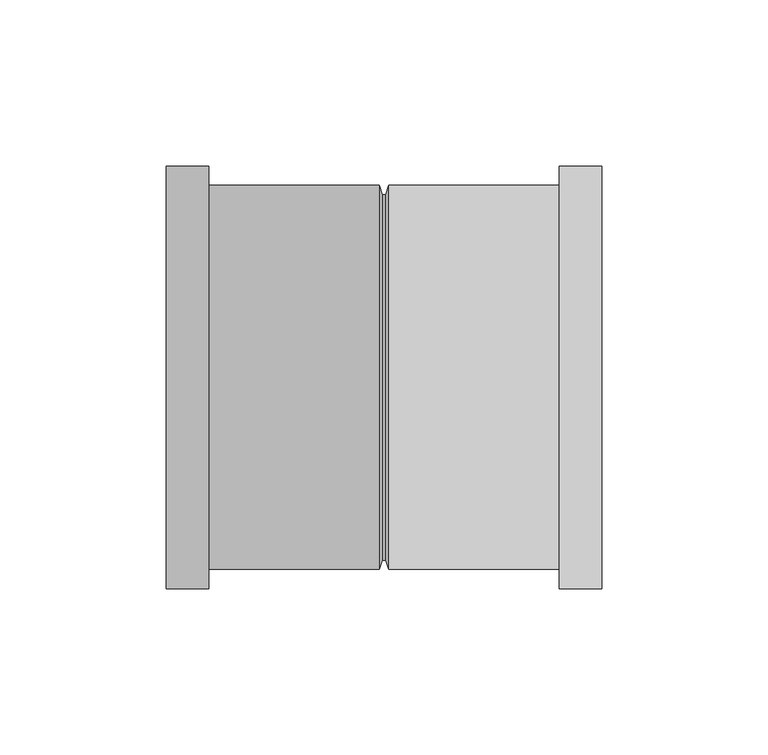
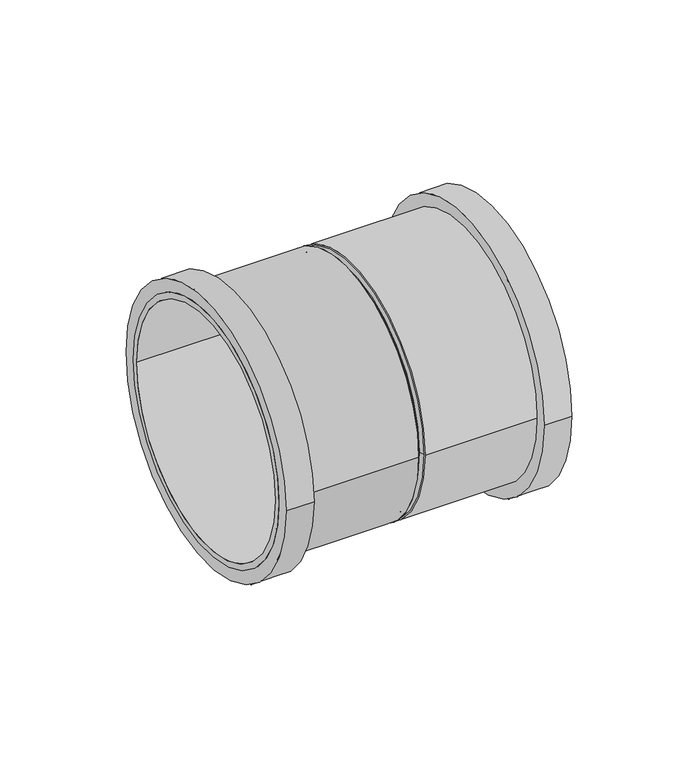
"""IFC4 building model written with IfcOpenShell, lengths in millimetres: pipe fitting geometry, Superdrain HTMM-Double socket : Superdrain HTMM-Double socket."""

from ifc_helpers import new_model, si_unit, point, frame, origin, origin_2d, place, context, project, spatial, polyline, circle_curve, trimmed, segment, composite_curve, outline, extrude, source, transform, mapped, element, save
from ifc_brep_helpers import plane_surface, revolved_surface, advanced_brep


def pipe_fitting_79083c1f(model_context):
    return source(origin(), model_context, "Body", "SolidModel", [
        extrude(outline(composite_curve([segment(trimmed(circle_curve(origin_2d(), 57.75), [point((57.75, 0.0))], [point((-57.75, 0.0))], False, "CARTESIAN"), True, "CONTINUOUS"), segment(trimmed(circle_curve(origin_2d(), 57.75), [point((-57.75, 0.0))], [point((57.75, 0.0))], False, "CARTESIAN"), True, "CONTINUOUS")], self_intersect=False), holes=[composite_curve([segment(trimmed(circle_curve(origin_2d(), 55.0), [point((55.0, 0.0))], [point((-55.0, 0.0))], True, "CARTESIAN"), True, "CONTINUOUS"), segment(trimmed(circle_curve(origin_2d(), 55.0), [point((-55.0, 0.0))], [point((55.0, 0.0))], True, "CARTESIAN"), True, "CONTINUOUS")], self_intersect=False)]), frame((1.5, 0.0, 0.0), z_axis=(1.0, 0.0, 0.0), x_axis=(0.0, 1.0, 0.0)), (0.0, 0.0, 1.0), 64.0),
        extrude(outline(composite_curve([segment(trimmed(circle_curve(origin_2d(), 63.525), [point((63.525, 0.0))], [point((-63.525, 0.0))], False, "CARTESIAN"), True, "CONTINUOUS"), segment(trimmed(circle_curve(origin_2d(), 63.525), [point((-63.525, 0.0))], [point((63.525, 0.0))], False, "CARTESIAN"), True, "CONTINUOUS")], self_intersect=False), holes=[composite_curve([segment(trimmed(circle_curve(origin_2d(), 55.0), [point((55.0, 0.0))], [point((-55.0, 0.0))], True, "CARTESIAN"), True, "CONTINUOUS"), segment(trimmed(circle_curve(origin_2d(), 55.0), [point((-55.0, 0.0))], [point((55.0, 0.0))], True, "CARTESIAN"), True, "CONTINUOUS")], self_intersect=False)]), frame((52.7, 0.0, 0.0), z_axis=(1.0, 0.0, 0.0), x_axis=(0.0, 1.0, 0.0)), (0.0, 0.0, 1.0), 12.8),
        advanced_brep(
        [(0.5, 55.0, 0.0), (0.5, -55.0, 0.0), (1.5, 57.75, 0.0), (1.5, -57.75, 0.0)],
        [
            (0, 1, circle_curve(frame((0.5, 0.0, 0.0), z_axis=(-1.0, 0.0, 0.0), x_axis=(0.0, 1.0, 0.0)), 55.0)),
            (1, 0, circle_curve(frame((0.5, 0.0, 0.0), z_axis=(-1.0, 0.0, 0.0), x_axis=(0.0, -1.0, 0.0)), 55.0)),
            (2, 3, circle_curve(frame((1.5, 0.0, 0.0), z_axis=(1.0, 0.0, 0.0), x_axis=(0.0, -1.0, 0.0)), 57.75)),
            (3, 2, circle_curve(frame((1.5, 0.0, 0.0), z_axis=(1.0, 0.0, 0.0), x_axis=(0.0, 1.0, 0.0)), 57.75)),
            (3, 1),
            (0, 2),
        ],
        [
            plane_surface(frame((0.5, 0.0, 0.0), z_axis=(-1.0, 0.0, 0.0), x_axis=(0.0, 0.0, -1.0))),
            plane_surface(frame((1.5, 0.0, 0.0), z_axis=(1.0, 0.0, 0.0), x_axis=(0.0, 0.0, -1.0))),
            revolved_surface(polyline([(0.5, 55.0, 0.0), (1.5, 57.75, 0.0)]), (-19.5, 0.0, 0.0), (1.0, 0.0, 0.0)),
            revolved_surface(polyline([(0.5, -55.0, 0.0), (1.5, -57.75, 0.0)]), (-19.5, 0.0, 0.0), (1.0, 0.0, 0.0)),
        ],
        [
            (0, [[1, 2]]),
            (1, [[3, 4]]),
            (2, [[-4, 5, -1, 6]]),
            (3, [[-3, -6, -2, -5]]),
        ],
    ),
        extrude(outline(composite_curve([segment(trimmed(circle_curve(origin_2d(), 57.75), [point((-57.75, 0.0))], [point((57.75, 0.0))], False, "CARTESIAN"), True, "CONTINUOUS"), segment(trimmed(circle_curve(origin_2d(), 57.75), [point((57.75, 0.0))], [point((-57.75, 0.0))], False, "CARTESIAN"), True, "CONTINUOUS")], self_intersect=False), holes=[composite_curve([segment(trimmed(circle_curve(origin_2d(), 55.0), [point((-55.0, 0.0))], [point((55.0, 0.0))], True, "CARTESIAN"), True, "CONTINUOUS"), segment(trimmed(circle_curve(origin_2d(), 55.0), [point((55.0, 0.0))], [point((-55.0, 0.0))], True, "CARTESIAN"), True, "CONTINUOUS")], self_intersect=False)]), frame((-65.5, 0.0, 0.0), z_axis=(1.0, 0.0, 0.0), x_axis=(0.0, 1.0, 0.0)), (0.0, 0.0, 1.0), 64.0),
        extrude(outline(composite_curve([segment(trimmed(circle_curve(origin_2d(), 63.525), [point((-63.525, 0.0))], [point((63.525, 0.0))], False, "CARTESIAN"), True, "CONTINUOUS"), segment(trimmed(circle_curve(origin_2d(), 63.525), [point((63.525, 0.0))], [point((-63.525, 0.0))], False, "CARTESIAN"), True, "CONTINUOUS")], self_intersect=False), holes=[composite_curve([segment(trimmed(circle_curve(origin_2d(), 55.0), [point((-55.0, 0.0))], [point((55.0, 0.0))], True, "CARTESIAN"), True, "CONTINUOUS"), segment(trimmed(circle_curve(origin_2d(), 55.0), [point((55.0, 0.0))], [point((-55.0, 0.0))], True, "CARTESIAN"), True, "CONTINUOUS")], self_intersect=False)]), frame((-65.5, 0.0, 0.0), z_axis=(1.0, 0.0, 0.0), x_axis=(0.0, 1.0, 0.0)), (0.0, 0.0, 1.0), 12.8),
        advanced_brep(
        [(-0.5, -55.0, 0.0), (-0.5, 55.0, 0.0), (-1.5, -57.75, 0.0), (-1.5, 57.75, 0.0)],
        [
            (0, 1, circle_curve(frame((-0.5, 0.0, 0.0), z_axis=(1.0, 0.0, 0.0), x_axis=(0.0, -1.0, 0.0)), 55.0)),
            (1, 0, circle_curve(frame((-0.5, 0.0, 0.0), z_axis=(1.0, 0.0, 0.0), x_axis=(0.0, 1.0, 0.0)), 55.0)),
            (2, 3, circle_curve(frame((-1.5, 0.0, 0.0), z_axis=(-1.0, 0.0, 0.0), x_axis=(0.0, 1.0, 0.0)), 57.75)),
            (3, 2, circle_curve(frame((-1.5, 0.0, 0.0), z_axis=(-1.0, 0.0, 0.0), x_axis=(0.0, -1.0, 0.0)), 57.75)),
            (3, 1),
            (0, 2),
        ],
        [
            plane_surface(frame((-0.5, 0.0, 0.0), z_axis=(1.0, 0.0, 0.0), x_axis=(0.0, 0.0, -1.0))),
            plane_surface(frame((-1.5, 0.0, 0.0), z_axis=(-1.0, 0.0, 0.0), x_axis=(0.0, 0.0, -1.0))),
            revolved_surface(polyline([(-0.5, -55.0, 0.0), (-1.5, -57.75, 0.0)]), (19.5, 0.0, 0.0), (-1.0, 0.0, 0.0)),
            revolved_surface(polyline([(-0.5, 55.0, 0.0), (-1.5, 57.75, 0.0)]), (19.5, 0.0, 0.0), (-1.0, 0.0, 0.0)),
        ],
        [
            (0, [[1, 2]]),
            (1, [[3, 4]]),
            (2, [[-4, 5, -1, 6]]),
            (3, [[-3, -6, -2, -5]]),
        ],
    ),
        extrude(outline(composite_curve([segment(trimmed(circle_curve(origin_2d(), 55.0), [point((-55.0, 0.0))], [point((55.0, 0.0))], False, "CARTESIAN"), True, "CONTINUOUS"), segment(trimmed(circle_curve(origin_2d(), 55.0), [point((55.0, 0.0))], [point((-55.0, 0.0))], False, "CARTESIAN"), True, "CONTINUOUS")], self_intersect=False)), frame((-1.5, 0.0, 0.0), z_axis=(1.0, 0.0, 0.0), x_axis=(0.0, 1.0, 0.0)), (0.0, 0.0, 1.0), 3.0),
    ])


if __name__ == "__main__":
    model = new_model("IFC4")
    model_context = context("Model", 3, world=origin())
    ifc_project = project(units=[si_unit("LENGTHUNIT", "METRE", prefix="MILLI")], contexts=[model_context])
    site = spatial("IfcSite", under=ifc_project)
    building = spatial("IfcBuilding", under=site)
    placement = place(None, origin())
    pipe_fitting_shape = pipe_fitting_79083c1f(model_context)
    element("IfcPipeFitting", 1, ObjectType="Superdrain HTMM-Double socket : Superdrain HTMM-Double socket", at=placement, inside=building, context=model_context, shape_type="MappedRepresentation", body=[
        mapped(pipe_fitting_shape, transform((0.0, 0.0, 0.0), x_axis=(1.0, 0.0, 0.0), y_axis=(0.0, 1.0, 0.0), z_axis=(0.0, 0.0, 1.0))),
    ])
    save(model, "model.ifc")
